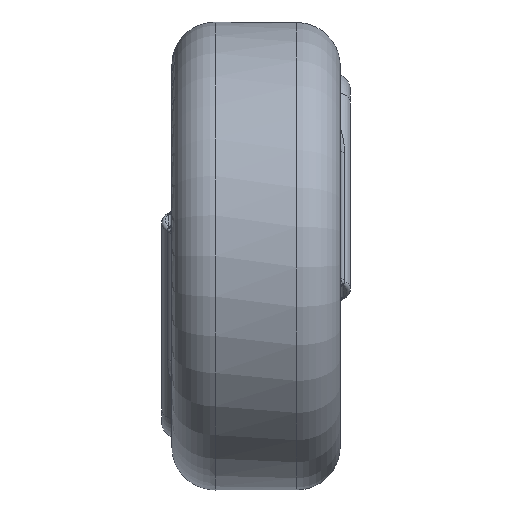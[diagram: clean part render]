
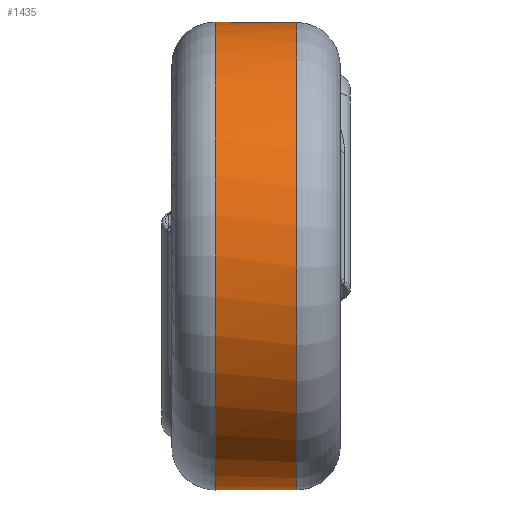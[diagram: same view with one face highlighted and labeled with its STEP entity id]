
A CAD part, left-side view. The second image highlights one B-rep face of the part: STEP entity #1435.
In plain terms, the highlighted cylindrical face has radius 13.5 mm (diameter 27 mm), a full revolution.
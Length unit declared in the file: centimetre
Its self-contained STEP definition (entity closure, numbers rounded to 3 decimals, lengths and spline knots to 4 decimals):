
#980=CARTESIAN_POINT('',(1.35,0.64,0.));
#981=VERTEX_POINT('',#980);
#982=CARTESIAN_POINT('',(0.0,0.64,0.0));
#983=DIRECTION('',(0.0,1.0,0.0));
#984=DIRECTION('',(-1.0,0.0,0.0));
#985=AXIS2_PLACEMENT_3D('',#982,#983,#984);
#986=CIRCLE('',#985,1.35);
#987=EDGE_CURVE('',#981,#981,#986,.T.);
#1326=CARTESIAN_POINT('',(1.35,0.169,0.));
#1327=VERTEX_POINT('',#1326);
#1328=CARTESIAN_POINT('',(0.0,0.169,0.0));
#1329=DIRECTION('',(0.0,-1.0,0.0));
#1330=DIRECTION('',(-1.0,0.0,0.0));
#1331=AXIS2_PLACEMENT_3D('',#1328,#1329,#1330);
#1332=CIRCLE('',#1331,1.35);
#1333=EDGE_CURVE('',#1327,#1327,#1332,.T.);
#1424=CARTESIAN_POINT('',(0.0,0.4045,0.0));
#1425=DIRECTION('',(0.0,1.0,0.0));
#1426=DIRECTION('',(-1.0,0.0,0.0));
#1427=AXIS2_PLACEMENT_3D('',#1424,#1425,#1426);
#1428=CYLINDRICAL_SURFACE('',#1427,1.35);
#1429=ORIENTED_EDGE('',*,*,#987,.F.);
#1430=EDGE_LOOP('',(#1429));
#1431=FACE_OUTER_BOUND('',#1430,.T.);
#1432=ORIENTED_EDGE('',*,*,#1333,.F.);
#1433=EDGE_LOOP('',(#1432));
#1434=FACE_BOUND('',#1433,.T.);
#1435=ADVANCED_FACE('',(#1431,#1434),#1428,.T.);
